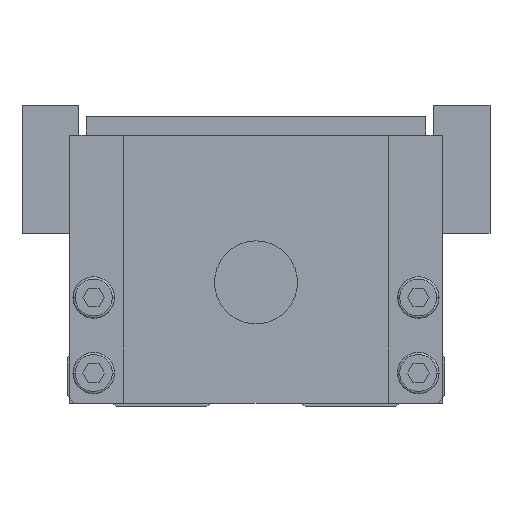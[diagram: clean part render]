
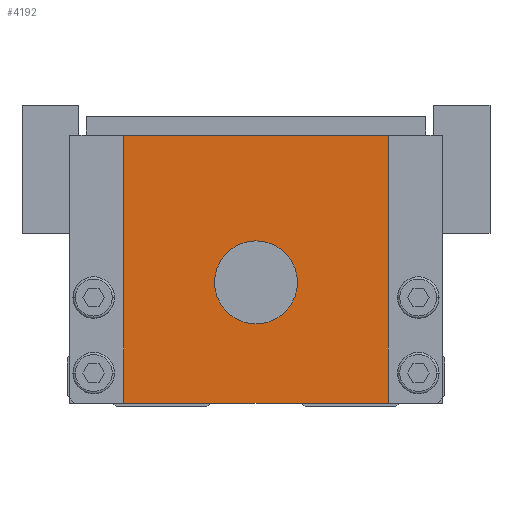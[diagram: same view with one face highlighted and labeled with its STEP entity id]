
A CAD part, front view. The second image highlights one B-rep face of the part: STEP entity #4192.
In plain terms, the highlighted planar face has unit normal (0, -1, 0).
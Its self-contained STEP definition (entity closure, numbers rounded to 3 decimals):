
#4192=ADVANCED_FACE('',(#12254,#12255),#12256,.F.);
#4468=VERTEX_POINT('',#12564);
#4744=EDGE_CURVE('',#4468,#9404,#12869,.T.);
#5174=VERTEX_POINT('',#13355);
#5522=EDGE_CURVE('',#8802,#5174,#13746,.T.);
#6814=VERTEX_POINT('',#15180);
#7506=EDGE_CURVE('',#11076,#6814,#15953,.T.);
#8170=EDGE_CURVE('',#5174,#4468,#16704,.T.);
#8560=EDGE_CURVE('',#8802,#9404,#17146,.T.);
#8802=VERTEX_POINT('',#17418);
#9404=VERTEX_POINT('',#18091);
#11076=VERTEX_POINT('',#19945);
#11266=EDGE_CURVE('',#6814,#11076,#20155,.T.);
#12254=FACE_BOUND('',#21268,.T.);
#12255=FACE_OUTER_BOUND('',#21269,.T.);
#12256=PLANE('',#21270);
#12564=CARTESIAN_POINT('',(17.5,0.0,0.5));
#12869=LINE('',#22128,#22129);
#13355=CARTESIAN_POINT('',(17.5,0.0,36.0));
#13746=LINE('',#23363,#23364);
#15180=CARTESIAN_POINT('',(5.5,0.0,16.5));
#15953=CIRCLE('',#26512,5.5);
#16704=LINE('',#27515,#27516);
#17146=LINE('',#28137,#28138);
#17418=CARTESIAN_POINT('',(-17.5,0.0,36.0));
#18091=CARTESIAN_POINT('',(-17.5,0.0,0.5));
#19945=CARTESIAN_POINT('',(-5.5,0.0,16.5));
#20155=CIRCLE('',#32600,5.5);
#21268=EDGE_LOOP('',(#34030,#34031));
#21269=EDGE_LOOP('',(#34032,#34033,#34034,#34035));
#21270=AXIS2_PLACEMENT_3D('',#34036,#34037,#34038);
#22128=CARTESIAN_POINT('',(0.0,0.0,0.5));
#22129=VECTOR('',#34733,1.0);
#23363=CARTESIAN_POINT('',(0.0,0.0,36.0));
#23364=VECTOR('',#35800,1.0);
#26512=AXIS2_PLACEMENT_3D('',#38262,#38263,#38264);
#27515=CARTESIAN_POINT('',(17.5,0.0,18.25));
#27516=VECTOR('',#39212,1.0);
#28137=CARTESIAN_POINT('',(-17.5,0.0,18.25));
#28138=VECTOR('',#39767,1.0);
#32600=AXIS2_PLACEMENT_3D('',#43165,#43166,#43167);
#34030=ORIENTED_EDGE('',*,*,#11266,.T.);
#34031=ORIENTED_EDGE('',*,*,#7506,.T.);
#34032=ORIENTED_EDGE('',*,*,#8560,.T.);
#34033=ORIENTED_EDGE('',*,*,#4744,.F.);
#34034=ORIENTED_EDGE('',*,*,#8170,.F.);
#34035=ORIENTED_EDGE('',*,*,#5522,.F.);
#34036=CARTESIAN_POINT('',(0.0,0.0,18.25));
#34037=DIRECTION('',(0.0,1.0,0.0));
#34038=DIRECTION('',(0.0,0.0,1.0));
#34733=DIRECTION('',(-1.0,0.0,0.0));
#35800=DIRECTION('',(1.0,0.0,0.0));
#38262=CARTESIAN_POINT('',(0.0,0.0,16.5));
#38263=DIRECTION('',(-0.0,1.0,0.0));
#38264=DIRECTION('',(1.0,0.0,0.0));
#39212=DIRECTION('',(0.0,0.0,-1.0));
#39767=DIRECTION('',(0.0,0.0,-1.0));
#43165=CARTESIAN_POINT('',(0.0,0.0,16.5));
#43166=DIRECTION('',(-0.0,1.0,0.0));
#43167=DIRECTION('',(1.0,0.0,0.0));
